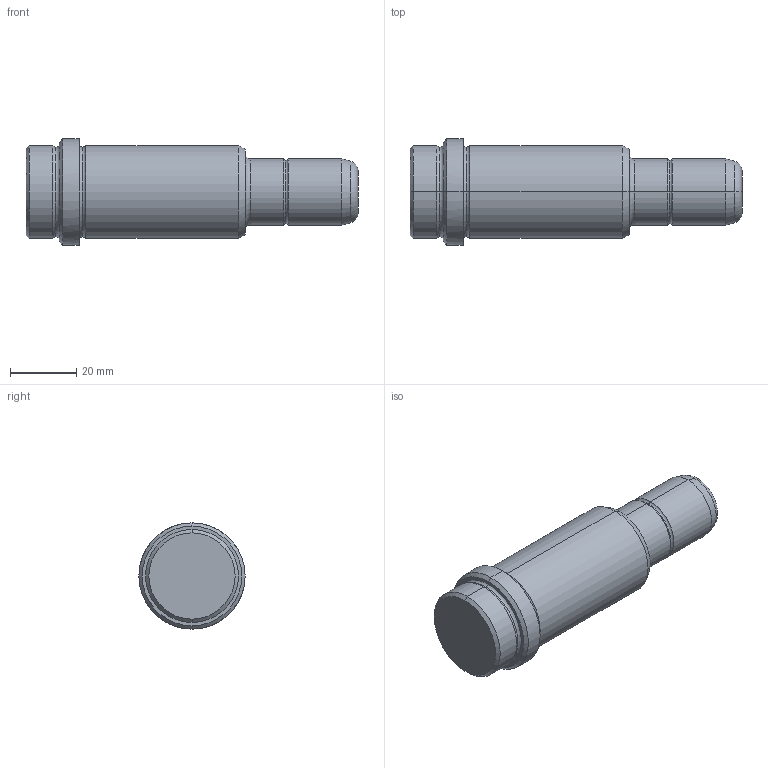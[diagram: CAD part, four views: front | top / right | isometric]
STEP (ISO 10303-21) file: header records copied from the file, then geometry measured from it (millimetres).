
FILE_DESCRIPTION(('CATIA V5 STEP Exchange'),'2;1');
FILE_NAME('C:\Users\Utente\Desktop\IO LAVORO\3D X SITO CF\X SITO\PLASTICA\357\357-20X66X100.stp','2021-08-14T09:25:20+00:00',('none'),('none'),'CATIA Version 5 Release 20 GA (IN-10)','CATIA V5 STEP AP203','none');
FILE_SCHEMA(('CONFIG_CONTROL_DESIGN'));
Length unit declared in the file: millimetre
Products named in the file (1): 357-20X66X100
Bounding box: 100 x 32 x 32 mm (x, y, z)
Volume: 51882.4 mm3; surface area: 9336.4 mm2
Topology: 1 solids, 1 shells, 39 faces, 112 edges, 78 vertices
Faces by surface type: torus 16, cylinder 10, cone 8, plane 5
Entity records: 1404 total; most frequent: CARTESIAN_POINT 342, ORIENTED_EDGE 224, DIRECTION 182, AXIS2_PLACEMENT_3D 126, EDGE_CURVE 112, CIRCLE 86, VERTEX_POINT 78, EDGE_LOOP 42
